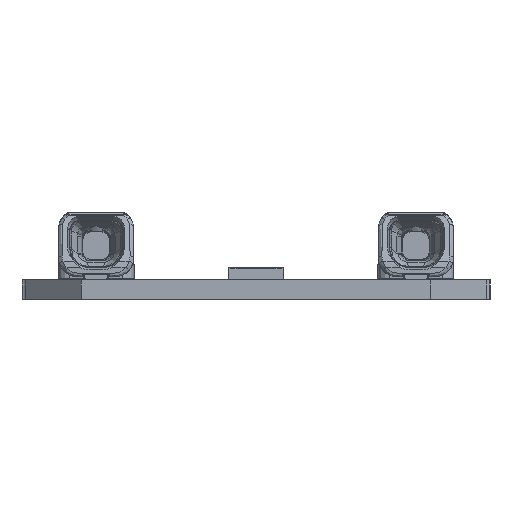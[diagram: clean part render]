
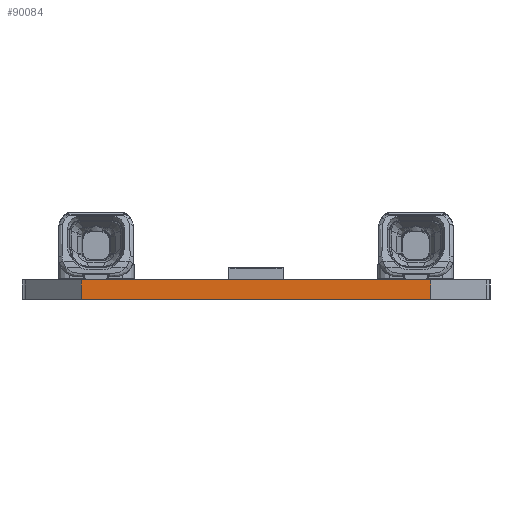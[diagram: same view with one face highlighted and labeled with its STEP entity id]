
A CAD part, left-side view. The second image highlights one B-rep face of the part: STEP entity #90084.
In plain terms, the highlighted planar face has unit normal (-1, 0, 0).
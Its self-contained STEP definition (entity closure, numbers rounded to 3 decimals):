
#4614=ORIENTED_EDGE('',*,*,#23644,.T.);
#4615=ORIENTED_EDGE('',*,*,#23707,.F.);
#4616=ORIENTED_EDGE('',*,*,#23112,.F.);
#4617=ORIENTED_EDGE('',*,*,#23708,.T.);
#23112=EDGE_CURVE('',#32748,#32749,#38923,.T.);
#23644=EDGE_CURVE('',#33281,#33280,#39392,.T.);
#23707=EDGE_CURVE('',#32749,#33280,#39451,.T.);
#23708=EDGE_CURVE('',#32748,#33281,#39452,.T.);
#32748=VERTEX_POINT('',#114934);
#32749=VERTEX_POINT('',#114936);
#33280=VERTEX_POINT('',#115999);
#33281=VERTEX_POINT('',#116001);
#38923=LINE('',#114935,#46075);
#39392=LINE('',#116000,#46544);
#39451=LINE('',#116129,#46603);
#39452=LINE('',#116131,#46604);
#46075=VECTOR('',#98517,1000.);
#46544=VECTOR('',#99114,1000.);
#46603=VECTOR('',#99303,1000.);
#46604=VECTOR('',#99306,1000.);
#53281=EDGE_LOOP('',(#4614,#4615,#4616,#4617));
#57351=FACE_BOUND('',#53281,.T.);
#61256=PLANE('',#93919);
#90084=ADVANCED_FACE('',(#57351),#61256,.F.);
#93919=AXIS2_PLACEMENT_3D('',#116130,#99304,#99305);
#98517=DIRECTION('',(0.,-1.,0.));
#99114=DIRECTION('',(0.,-1.,0.));
#99303=DIRECTION('',(0.,0.,-1.));
#99304=DIRECTION('',(1.,0.,0.));
#99305=DIRECTION('',(0.,0.,-1.));
#99306=DIRECTION('',(0.,0.,-1.));
#114934=CARTESIAN_POINT('',(-279.8,8.95,1.));
#114935=CARTESIAN_POINT('',(-279.8,8.95,1.));
#114936=CARTESIAN_POINT('',(-279.8,-8.95,1.));
#115999=CARTESIAN_POINT('',(-279.8,-8.95,0.));
#116000=CARTESIAN_POINT('',(-279.8,8.95,0.));
#116001=CARTESIAN_POINT('',(-279.8,8.95,0.));
#116129=CARTESIAN_POINT('',(-279.8,-8.95,1.));
#116130=CARTESIAN_POINT('',(-279.8,8.95,1.));
#116131=CARTESIAN_POINT('',(-279.8,8.95,1.));
